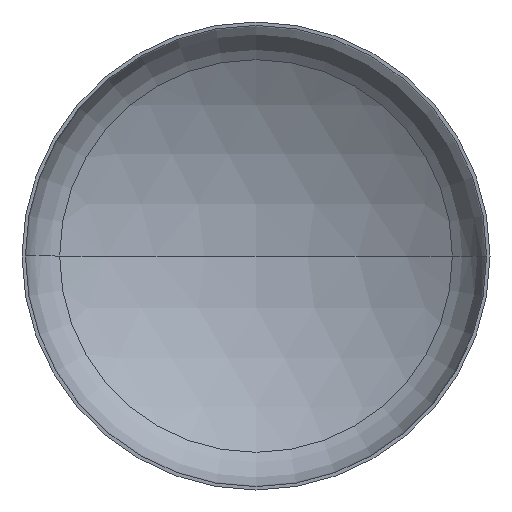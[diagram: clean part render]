
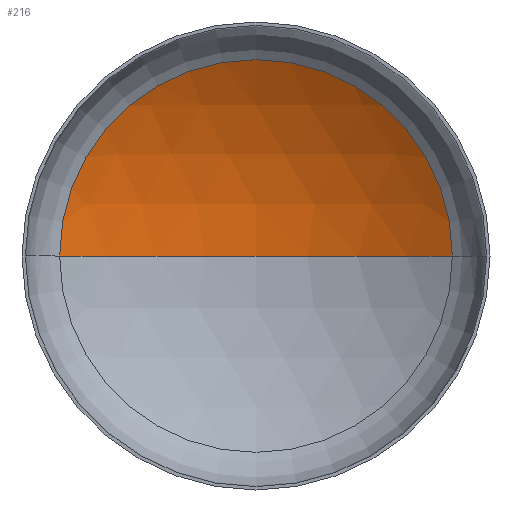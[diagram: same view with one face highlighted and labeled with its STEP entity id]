
A CAD part, front view. The second image highlights one B-rep face of the part: STEP entity #216.
In plain terms, the highlighted spherical face has radius 2080 mm.
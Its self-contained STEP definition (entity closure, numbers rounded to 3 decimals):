
#17 = EDGE_LOOP ( 'NONE', ( #112, #61, #97 ) ) ;
#31 = VERTEX_POINT ( 'NONE', #287 ) ;
#36 = AXIS2_PLACEMENT_3D ( 'NONE', #44, #60, #390 ) ;
#42 = VERTEX_POINT ( 'NONE', #277 ) ;
#44 = CARTESIAN_POINT ( 'NONE',  ( 0., -1370.468, 0. ) ) ;
#52 = AXIS2_PLACEMENT_3D ( 'NONE', #258, #275, #273 ) ;
#55 = AXIS2_PLACEMENT_3D ( 'NONE', #224, #222, #223 ) ;
#58 = AXIS2_PLACEMENT_3D ( 'NONE', #334, #286, #249 ) ;
#60 = DIRECTION ( 'NONE',  ( 0., 0., -1. ) ) ;
#61 = ORIENTED_EDGE ( 'NONE', *, *, #173, .T. ) ;
#97 = ORIENTED_EDGE ( 'NONE', *, *, #160, .T. ) ;
#112 = ORIENTED_EDGE ( 'NONE', *, *, #180, .F. ) ;
#127 = VERTEX_POINT ( 'NONE', #303 ) ;
#141 = SPHERICAL_SURFACE ( 'NONE', #36, 2080. ) ;
#150 = CIRCLE ( 'NONE', #52, 2080. ) ;
#160 = EDGE_CURVE ( 'NONE', #31, #42, #283, .T. ) ;
#173 = EDGE_CURVE ( 'NONE', #127, #31, #225, .T. ) ;
#180 = EDGE_CURVE ( 'NONE', #127, #42, #150, .T. ) ;
#216 = ADVANCED_FACE ( 'NONE', ( #341 ), #141, .F. ) ;
#222 = DIRECTION ( 'NONE',  ( 0., 0., -1. ) ) ;
#223 = DIRECTION ( 'NONE',  ( -1., 0., 0. ) ) ;
#224 = CARTESIAN_POINT ( 'NONE',  ( 0., -1370.468, 0. ) ) ;
#225 = CIRCLE ( 'NONE', #55, 2080. ) ;
#249 = DIRECTION ( 'NONE',  ( 1., 0., 0. ) ) ;
#258 = CARTESIAN_POINT ( 'NONE',  ( 0., -1370.468, 0. ) ) ;
#273 = DIRECTION ( 'NONE',  ( 1., 0., 0. ) ) ;
#275 = DIRECTION ( 'NONE',  ( 0., 0., 1. ) ) ;
#277 = CARTESIAN_POINT ( 'NONE',  ( -1090.762, 400.588, 0. ) ) ;
#283 = CIRCLE ( 'NONE', #58, 1090.762 ) ;
#286 = DIRECTION ( 'NONE',  ( 0., -1., 0. ) ) ;
#287 = CARTESIAN_POINT ( 'NONE',  ( 1090.762, 400.588, 0. ) ) ;
#303 = CARTESIAN_POINT ( 'NONE',  ( 0., 709.532, 0. ) ) ;
#334 = CARTESIAN_POINT ( 'NONE',  ( 0., 400.588, 0. ) ) ;
#341 = FACE_OUTER_BOUND ( 'NONE', #17, .T. ) ;
#390 = DIRECTION ( 'NONE',  ( -1., 0., 0. ) ) ;
